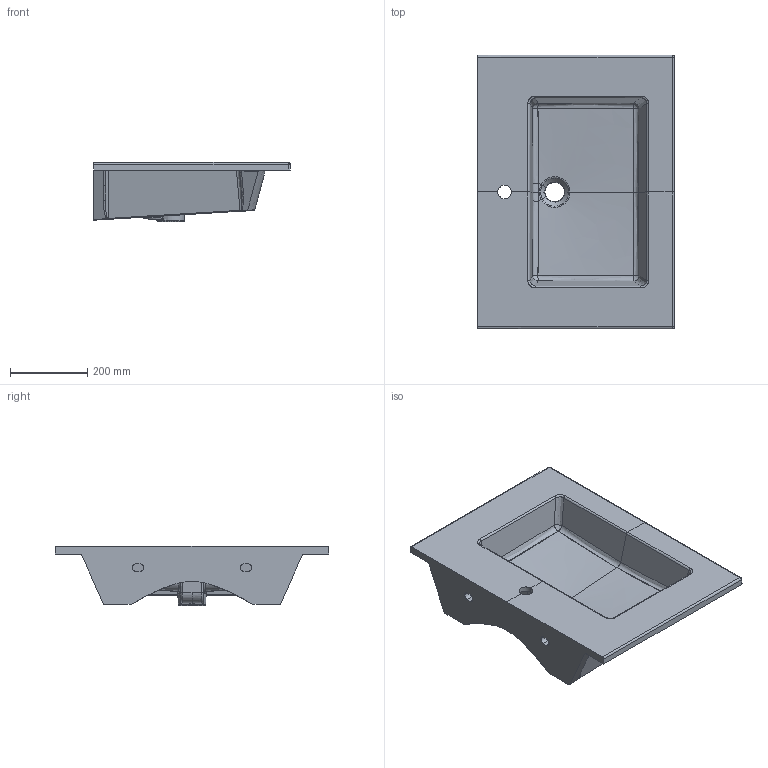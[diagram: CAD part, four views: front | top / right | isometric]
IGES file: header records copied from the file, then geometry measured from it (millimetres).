
Start section: START RECORD GO HERE.
Global section: file name: Art 2030 Lav Panarea 71.igs; native system: IBM CATIA IGES - CATIA Version 5 Release 17 ; preprocessor: CATIA Version 5 Release 17 ; author: Luca; organization: PC-Luca; date: 20111216.113435; units: millimetre
Bounding box: 510.7 x 711.4 x 153.4 mm (x, y, z)
Surface area: 1192317.3 mm2 (no closed solid volume)
Topology: 0 solids, 0 shells, 364 faces, 1700 edges, 1670 vertices
Faces by surface type: bspline 364
